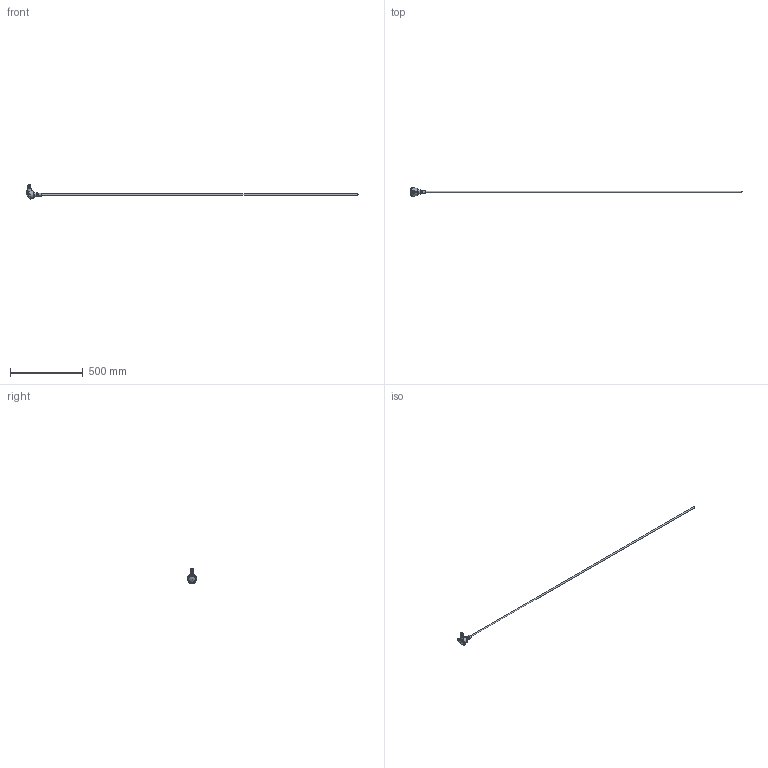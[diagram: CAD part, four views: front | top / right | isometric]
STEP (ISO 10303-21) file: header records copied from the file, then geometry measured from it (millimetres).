
FILE_DESCRIPTION( ( 'Unknown' ), '1' );
FILE_NAME( 'Z:/U_Proces/dokumentation new/Mechanical parts/7000 3D Step filer/7000-/7000293/TCR6-1520.2001.2018.0810.2200.stp', 'Unknown', ( 'Unknown' ), ( 'Unknown' ), 'PSStep 15.0.49', 'Unknown', ' ' );
FILE_SCHEMA( ( 'AUTOMOTIVE_DESIGN { 1 0 10303 214 1 1 1 1 }' ) );
Length unit declared in the file: millimetre
Products named in the file (1): 11108855
Bounding box: 2282.19 x 66.75 x 102.48 mm (x, y, z)
Volume: 236318.3 mm3; surface area: 102313.1 mm2
Topology: 1 solids, 1 shells, 206 faces, 497 edges, 313 vertices
Faces by surface type: plane 92, cylinder 37, cone 35, torus 19, bspline 16, sphere 5, revolution 2
Full cylindrical faces by diameter (mm): 2.5 x1, 8.1 x2, 8.4 x1, 9 x1, 10 x1, 11.2 x1, 13.1 x1, 13.157 x1, 14 x1, 14.376 x1, 15.5 x1, 15.77 x1, 16.8 x1, 16.9 x1, 18 x1, 18.376 x1, 20.9 x1, 21.336 x1, 25.5 x1, 28.2 x1, 47 x1, 50 x1, 50.5 x1, 64.5 x1, 67 x1
Entity records: 8725 total; most frequent: CARTESIAN_POINT 2808, DIRECTION 856, ORIENTED_EDGE 834, EDGE_CURVE 417, AXIS2_PLACEMENT_3D 370, VERTEX_POINT 288, EDGE_LOOP 280, FACE_OUTER_BOUND 243
